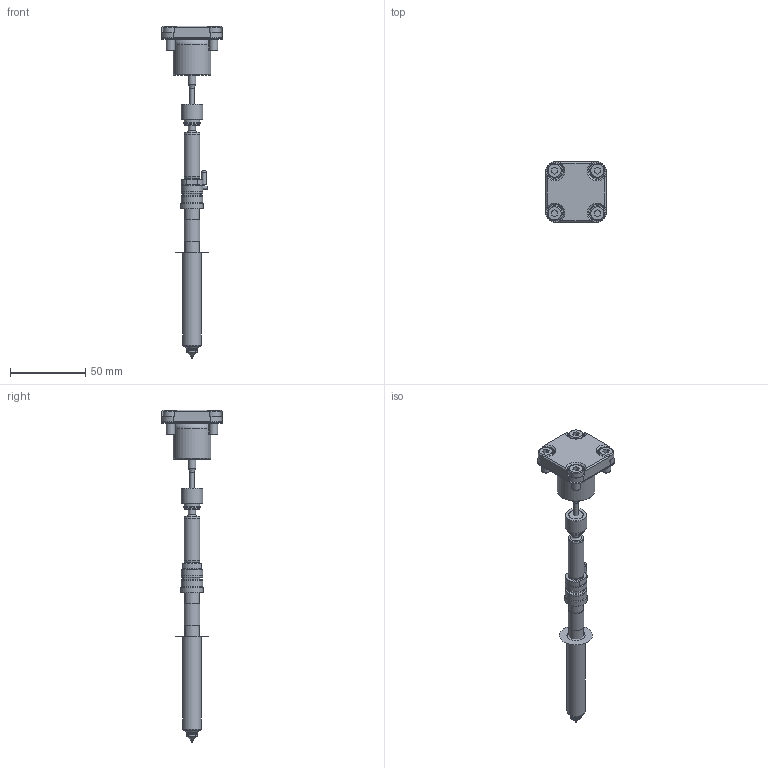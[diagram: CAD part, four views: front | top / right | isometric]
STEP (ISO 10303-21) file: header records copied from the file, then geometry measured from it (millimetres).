
FILE_DESCRIPTION(/* description */ (''),/* implementation_level */ '2;1');
FILE_NAME(/* name */ 'U250 UH 250 T2_mzong_20220329.stp',/* time_stamp */ '2022-03-29T16:28:19+08:00',/* author */ (''),/* organization */ (''),/* preprocessor_version */ 'ST-DEVELOPER v16',/* originating_system */ 'SIEMENS PLM Software NX 11.0',/* authorisation */ '');
FILE_SCHEMA (('AUTOMOTIVE_DESIGN { 1 0 10303 214 3 1 1 1 }'));
Length unit declared in the file: millimetre
Products named in the file (1): 11487856_0_1
Bounding box: 40 x 40 x 220.09 mm (x, y, z)
Volume: 58542.5 mm3; surface area: 29594.5 mm2
Topology: 27 solids, 27 shells, 471 faces, 1136 edges, 729 vertices
Faces by surface type: plane 172, cylinder 152, cone 82, torus 57, sphere 4, bspline 4
Full cylindrical faces by diameter (mm): 1 x3, 1.995 x1, 2 x1, 2.05 x1, 2.955 x1, 3 x5, 4.6 x1, 4.7 x1, 5 x3, 5.5 x1, 5.795 x4, 6 x4, 6.45 x1, 6.465 x1, 6.49 x1, 6.995 x1, 7 x9, 8.38 x1, 9.56 x2, 9.9 x1, 10 x5, 10.515 x1, 10.55 x1, 10.61 x1, 12 x1, 14.5 x5, 14.73 x1, 15.974 x1, 22 x1, 22.5 x1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
Entity records: 13755 total; most frequent: CARTESIAN_POINT 3743, DIRECTION 1921, ORIENTED_EDGE 1858, EDGE_CURVE 929, AXIS2_PLACEMENT_3D 792, VERTEX_POINT 680, EDGE_LOOP 679, ADVANCED_FACE 471
